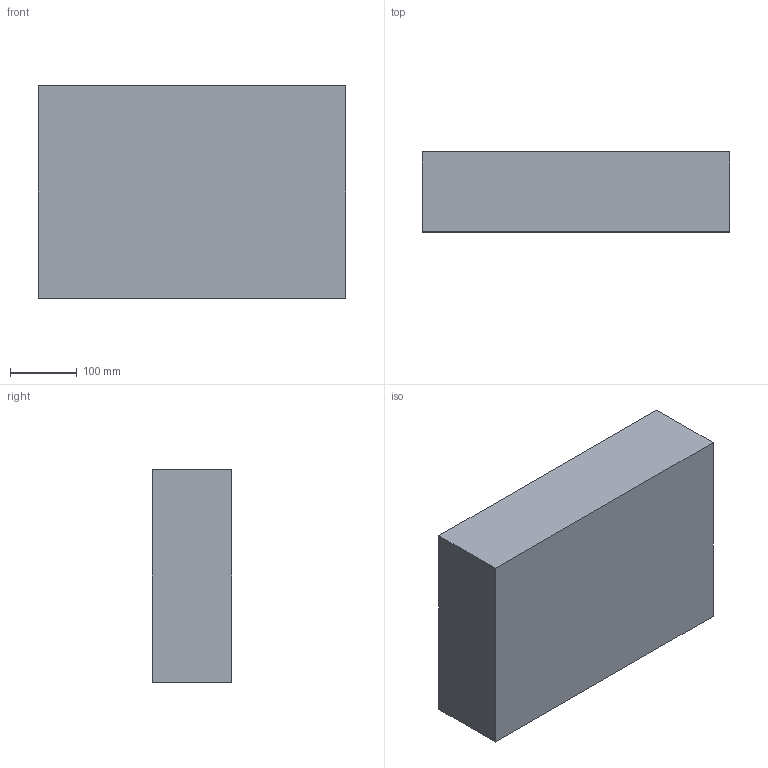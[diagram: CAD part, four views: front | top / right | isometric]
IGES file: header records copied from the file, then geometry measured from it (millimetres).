
Start section: SolidWorks IGES file using analytic representation for surfaces
Global section: file name: C:\temp\EU files dimensions 12-14-15\EU case files in pdf and DXF format\1500 Peli Case Bottom.IGS; native system: SolidWorks 2014; preprocessor: SolidWorks 2014; author: mhakami; date: 160110.163038; units: inch
Bounding box: 460.37 x 119.38 x 318 mm (x, y, z)
Surface area: 910270.7 mm2 (no closed solid volume)
Topology: 0 solids, 0 shells, 579 faces, 6559 edges, 6559 vertices
Faces by surface type: bspline 319, revolution 260
